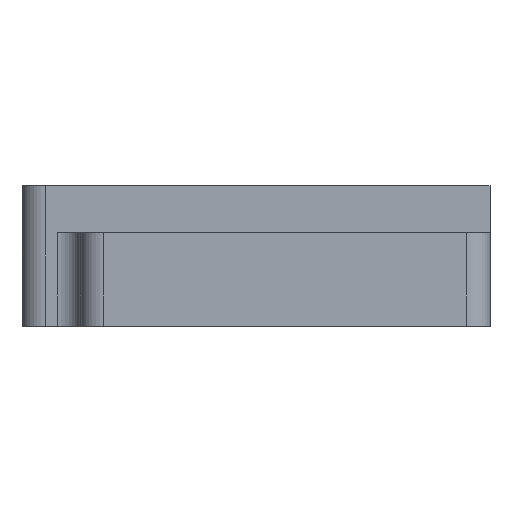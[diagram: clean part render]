
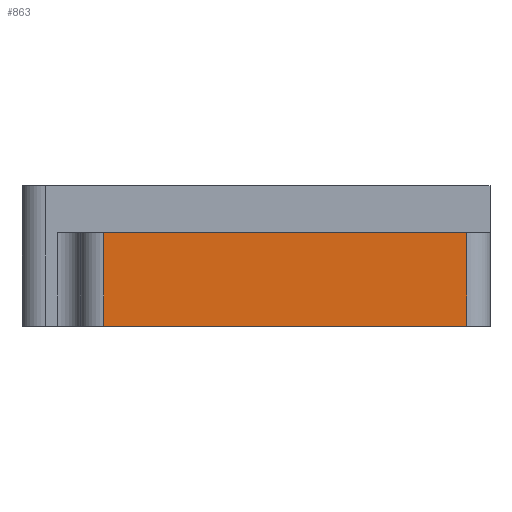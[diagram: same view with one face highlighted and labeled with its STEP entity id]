
A CAD part, front view. The second image highlights one B-rep face of the part: STEP entity #863.
In plain terms, the highlighted planar face has unit normal (0, -1, 0).
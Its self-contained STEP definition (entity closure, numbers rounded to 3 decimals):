
#143 = CARTESIAN_POINT ( 'NONE',  ( -67.257, -57.356, 39.946 ) ) ;
#145 = VECTOR ( 'NONE', #6111, 1000. ) ;
#343 = DIRECTION ( 'NONE',  ( 0., 0., -1. ) ) ;
#474 = CARTESIAN_POINT ( 'NONE',  ( 0., -57.356, 0. ) ) ;
#742 = LINE ( 'NONE', #5313, #911 ) ;
#863 = ADVANCED_FACE ( 'NONE', ( #6438 ), #4101, .F. ) ;
#911 = VECTOR ( 'NONE', #1762, 1000. ) ;
#1061 = VERTEX_POINT ( 'NONE', #3379 ) ;
#1231 = VERTEX_POINT ( 'NONE', #6499 ) ;
#1340 = EDGE_CURVE ( 'NONE', #1061, #1231, #6077, .T. ) ;
#1497 = VERTEX_POINT ( 'NONE', #6623 ) ;
#1693 = CARTESIAN_POINT ( 'NONE',  ( -69.257, -57.356, 47.946 ) ) ;
#1762 = DIRECTION ( 'NONE',  ( -1., 0., 0. ) ) ;
#1848 = DIRECTION ( 'NONE',  ( 0., 1., 0. ) ) ;
#2098 = LINE ( 'NONE', #4038, #7179 ) ;
#2162 = EDGE_CURVE ( 'NONE', #1231, #1497, #5241, .T. ) ;
#2452 = ORIENTED_EDGE ( 'NONE', *, *, #2162, .T. ) ;
#3379 = CARTESIAN_POINT ( 'NONE',  ( -100.257, -57.356, 39.946 ) ) ;
#3474 = ORIENTED_EDGE ( 'NONE', *, *, #1340, .T. ) ;
#3911 = EDGE_CURVE ( 'NONE', #7024, #1061, #2098, .T. ) ;
#4019 = DIRECTION ( 'NONE',  ( 0., 0., 1. ) ) ;
#4038 = CARTESIAN_POINT ( 'NONE',  ( -100.257, -57.356, 0. ) ) ;
#4101 = PLANE ( 'NONE',  #4369 ) ;
#4222 = DIRECTION ( 'NONE',  ( 1., 0., 0. ) ) ;
#4369 = AXIS2_PLACEMENT_3D ( 'NONE', #474, #1848, #4222 ) ;
#4870 = ORIENTED_EDGE ( 'NONE', *, *, #3911, .T. ) ;
#4883 = EDGE_CURVE ( 'NONE', #1497, #7024, #742, .T. ) ;
#5241 = LINE ( 'NONE', #1693, #5605 ) ;
#5313 = CARTESIAN_POINT ( 'NONE',  ( -102.257, -57.356, 47.946 ) ) ;
#5605 = VECTOR ( 'NONE', #4019, 1000. ) ;
#6077 = LINE ( 'NONE', #143, #145 ) ;
#6111 = DIRECTION ( 'NONE',  ( 1., 0., 0. ) ) ;
#6407 = EDGE_LOOP ( 'NONE', ( #3474, #2452, #6455, #4870 ) ) ;
#6434 = CARTESIAN_POINT ( 'NONE',  ( -100.257, -57.356, 47.946 ) ) ;
#6438 = FACE_OUTER_BOUND ( 'NONE', #6407, .T. ) ;
#6455 = ORIENTED_EDGE ( 'NONE', *, *, #4883, .T. ) ;
#6499 = CARTESIAN_POINT ( 'NONE',  ( -69.257, -57.356, 39.946 ) ) ;
#6623 = CARTESIAN_POINT ( 'NONE',  ( -69.257, -57.356, 47.946 ) ) ;
#7024 = VERTEX_POINT ( 'NONE', #6434 ) ;
#7179 = VECTOR ( 'NONE', #343, 1000. ) ;
